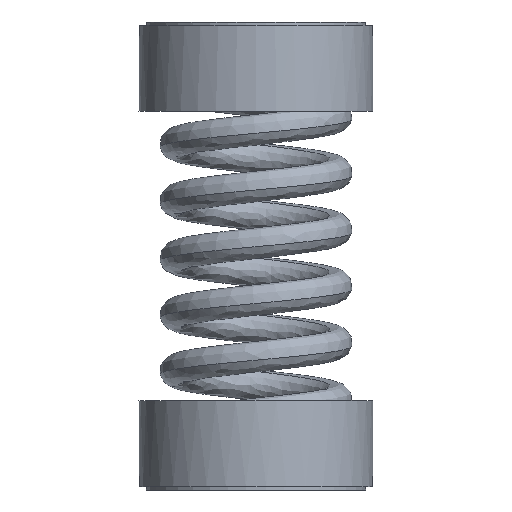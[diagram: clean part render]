
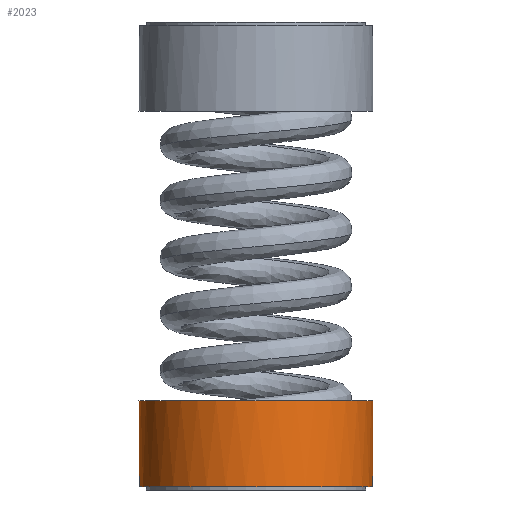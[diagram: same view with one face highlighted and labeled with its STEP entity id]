
A CAD part, left-side view. The second image highlights one B-rep face of the part: STEP entity #2023.
In plain terms, the highlighted cylindrical face has radius 26.988 mm (diameter 53.975 mm), a full revolution.
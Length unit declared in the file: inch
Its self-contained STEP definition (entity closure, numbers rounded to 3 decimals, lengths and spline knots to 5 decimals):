
#52=FACE_BOUND('',#351,.T.);
#228=FACE_OUTER_BOUND('',#350,.T.);
#350=EDGE_LOOP('',(#1565,#1566,#1567,#1568,#1569,#1570,#1571,#1572));
#351=EDGE_LOOP('',(#1573));
#456=LINE('',#13194,#598);
#480=LINE('',#13243,#622);
#484=LINE('',#13252,#626);
#509=LINE('',#13308,#651);
#598=VECTOR('',#2343,0.09375);
#622=VECTOR('',#2369,0.09375);
#626=VECTOR('',#2375,0.09375);
#651=VECTOR('',#2414,0.09375);
#719=CIRCLE('',#2114,1.0625);
#721=CIRCLE('',#2117,1.0625);
#737=CIRCLE('',#2147,1.0625);
#740=CIRCLE('',#2153,1.0625);
#741=CIRCLE('',#2155,1.0625);
#856=VERTEX_POINT('',#13191);
#857=VERTEX_POINT('',#13193);
#880=VERTEX_POINT('',#13240);
#881=VERTEX_POINT('',#13242);
#884=VERTEX_POINT('',#13249);
#885=VERTEX_POINT('',#13251);
#897=VERTEX_POINT('',#13280);
#909=VERTEX_POINT('',#13306);
#913=VERTEX_POINT('',#13346);
#1076=EDGE_CURVE('',#857,#856,#456,.T.);
#1100=EDGE_CURVE('',#881,#880,#480,.T.);
#1104=EDGE_CURVE('',#885,#884,#484,.T.);
#1117=EDGE_CURVE('',#856,#881,#719,.T.);
#1120=EDGE_CURVE('',#884,#897,#721,.T.);
#1133=EDGE_CURVE('',#897,#909,#509,.T.);
#1149=EDGE_CURVE('',#885,#880,#737,.T.);
#1152=EDGE_CURVE('',#913,#913,#740,.T.);
#1153=EDGE_CURVE('',#857,#909,#741,.T.);
#1565=ORIENTED_EDGE('',*,*,#1133,.T.);
#1566=ORIENTED_EDGE('',*,*,#1153,.F.);
#1567=ORIENTED_EDGE('',*,*,#1076,.T.);
#1568=ORIENTED_EDGE('',*,*,#1117,.T.);
#1569=ORIENTED_EDGE('',*,*,#1100,.T.);
#1570=ORIENTED_EDGE('',*,*,#1149,.F.);
#1571=ORIENTED_EDGE('',*,*,#1104,.T.);
#1572=ORIENTED_EDGE('',*,*,#1120,.T.);
#1573=ORIENTED_EDGE('',*,*,#1152,.T.);
#1826=CYLINDRICAL_SURFACE('',#2154,1.0625);
#2023=ADVANCED_FACE('',(#228,#52),#1826,.T.);
#2114=AXIS2_PLACEMENT_3D('',#13276,#2391,#2392);
#2117=AXIS2_PLACEMENT_3D('',#13282,#2398,#2399);
#2147=AXIS2_PLACEMENT_3D('',#13338,#2471,#2472);
#2153=AXIS2_PLACEMENT_3D('',#13347,#2483,#2484);
#2154=AXIS2_PLACEMENT_3D('',#13348,#2485,#2486);
#2155=AXIS2_PLACEMENT_3D('',#13349,#2487,#2488);
#2343=DIRECTION('',(0.,0.,1.));
#2369=DIRECTION('',(0.,0.,-1.));
#2375=DIRECTION('',(0.,0.,1.));
#2391=DIRECTION('center_axis',(0.,0.,
1.));
#2392=DIRECTION('ref_axis',(1.,0.,0.));
#2398=DIRECTION('center_axis',(0.,0.,
1.));
#2399=DIRECTION('ref_axis',(1.,0.,0.));
#2414=DIRECTION('',(0.,0.,-1.));
#2471=DIRECTION('center_axis',(0.,0.,
-1.));
#2472=DIRECTION('ref_axis',(1.,0.,0.));
#2483=DIRECTION('center_axis',(0.,0.,
-1.));
#2484=DIRECTION('ref_axis',(1.,0.,0.));
#2485=DIRECTION('center_axis',(0.,0.,
-1.));
#2486=DIRECTION('ref_axis',(1.,0.,0.));
#2487=DIRECTION('center_axis',(0.,0.,
-1.));
#2488=DIRECTION('ref_axis',(1.,0.,0.));
#13191=CARTESIAN_POINT('',(0.09375,1.05836,0.125));
#13193=CARTESIAN_POINT('',(0.09375,1.05836,0.03125));
#13194=CARTESIAN_POINT('',(0.09375,1.05836,0.42188));
#13240=CARTESIAN_POINT('',(-0.09375,1.05836,0.03125));
#13242=CARTESIAN_POINT('',(-0.09375,1.05836,0.125));
#13243=CARTESIAN_POINT('',(-0.09375,1.05836,0.42188));
#13249=CARTESIAN_POINT('',(-0.09375,-1.05836,0.125));
#13251=CARTESIAN_POINT('',(-0.09375,-1.05836,0.03125));
#13252=CARTESIAN_POINT('',(-0.09375,-1.05836,0.42188));
#13276=CARTESIAN_POINT('Origin',(0.,0.,
0.125));
#13280=CARTESIAN_POINT('',(0.09375,-1.05836,0.125));
#13282=CARTESIAN_POINT('Origin',(0.,0.,
0.125));
#13306=CARTESIAN_POINT('',(0.09375,-1.05836,0.03125));
#13308=CARTESIAN_POINT('',(0.09375,-1.05836,0.42188));
#13338=CARTESIAN_POINT('Origin',(0.,0.,
0.03125));
#13346=CARTESIAN_POINT('',(1.0625,0.,0.8125));
#13347=CARTESIAN_POINT('Origin',(0.,0.,
0.8125));
#13348=CARTESIAN_POINT('Origin',(0.,0.,
0.42188));
#13349=CARTESIAN_POINT('Origin',(0.,0.,
0.03125));
